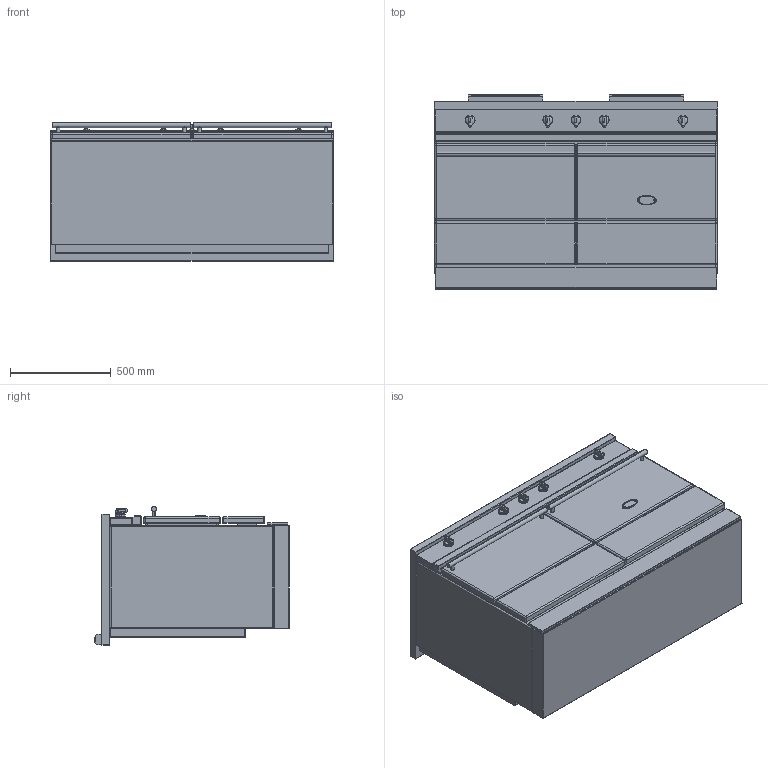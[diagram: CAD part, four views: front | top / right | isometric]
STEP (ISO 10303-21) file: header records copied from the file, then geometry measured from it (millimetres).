
FILE_DESCRIPTION((''),'2;1');
FILE_NAME('LMVI1432_ASM','2022-04-13T11:52:33',('stagiaire'),(''),'CREO PARAMETRIC BY PTC INC, 2021424','CREO PARAMETRIC BY PTC INC, 2021424','');
FILE_SCHEMA(('AP203_CONFIGURATION_CONTROLLED_3D_DESIGN_OF_MECHANICAL_PARTS_AND_ASSEMBLIES_MIM_LF { 1 0 10303 403 2 1 2 }'));
Length unit declared in the file: millimetre
Products named in the file (12): BASE_EXPORT_SULLY_LMVI1432; 65064012; 19150009; 88064012_ASM; 65049009; 65650001; BASE_EXPORT_SULLY_LMVI1432_ASM; TABLE_SULLY_1405_INDUCTION_VTR; 65052012; CHEMINEE_2020_LG371_EXPORT_STEP; TABLE_SULLY_1405_INDUCTION_ASM; LMVI1432_ASM
Assembly tree (16 placements, depth 4):
  LMVI1432_ASM
    BASE_EXPORT_SULLY_LMVI1432_ASM
      BASE_EXPORT_SULLY_LMVI1432
      88064012_ASM  x5
        65064012
        19150009
      65049009
      65650001
    TABLE_SULLY_1405_INDUCTION_ASM
      TABLE_SULLY_1405_INDUCTION_VTR
      65052012
      CHEMINEE_2020_LG371_EXPORT_STEP  x2
Bounding box: 1405 x 963 x 688.5 mm (x, y, z)
Volume: 756062140.2 mm3; surface area: 11153944.4 mm2
Topology: 21 solids, 21 shells, 2517 faces, 7196 edges, 4589 vertices
Faces by surface type: plane 1133, cylinder 920, sphere 200, bspline 179, torus 57, cone 26, extrusion 2
Entity records: 62161 total; most frequent: CARTESIAN_POINT 15411, DIRECTION 7902, ORIENTED_EDGE 7754, EDGE_CURVE 3877, VECTOR 2839, LINE 2837, AXIS2_PLACEMENT_3D 2515, VERTEX_POINT 2465
